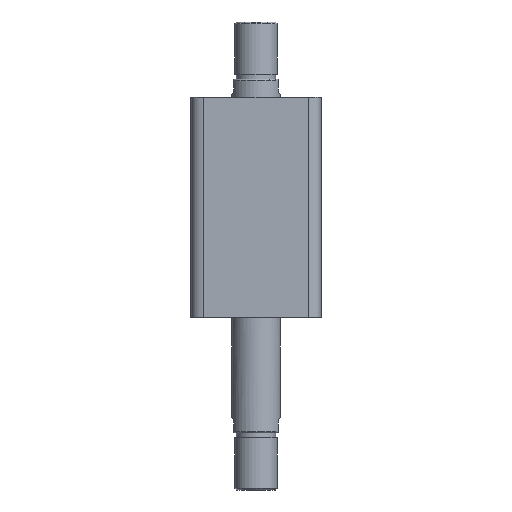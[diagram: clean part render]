
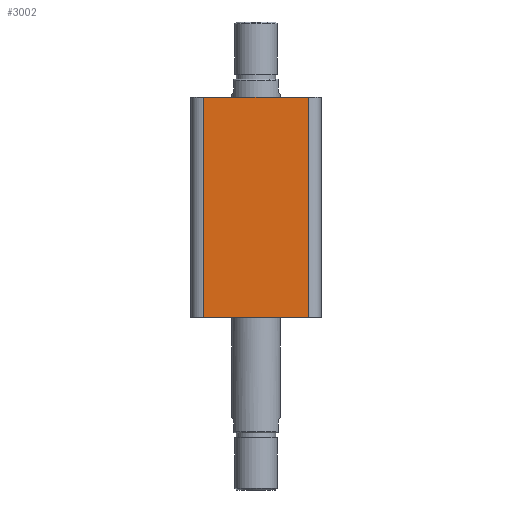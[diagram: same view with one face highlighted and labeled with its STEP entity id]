
A CAD part, front view. The second image highlights one B-rep face of the part: STEP entity #3002.
In plain terms, the highlighted planar face has unit normal (0, -1, 0).
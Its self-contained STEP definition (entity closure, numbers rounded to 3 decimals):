
#128 = AXIS2_PLACEMENT_3D ( 'NONE', #2170, #2174, #2175 ) ;
#663 = LINE ( 'NONE', #1323, #676 ) ;
#669 = LINE ( 'NONE', #1333, #672 ) ;
#671 = LINE ( 'NONE', #1335, #674 ) ;
#672 = VECTOR ( 'NONE', #1334, 1000. ) ;
#674 = VECTOR ( 'NONE', #1336, 1000. ) ;
#675 = LINE ( 'NONE', #1338, #678 ) ;
#676 = VECTOR ( 'NONE', #1337, 1000. ) ;
#678 = VECTOR ( 'NONE', #1339, 1000. ) ;
#1218 = FACE_OUTER_BOUND ( 'NONE', #3411, .T. ) ;
#1323 = CARTESIAN_POINT ( 'NONE',  ( -40., -40., 0. ) ) ;
#1333 = CARTESIAN_POINT ( 'NONE',  ( -40., -40., 135. ) ) ;
#1334 = DIRECTION ( 'NONE',  ( 1., 0., 0. ) ) ;
#1335 = CARTESIAN_POINT ( 'NONE',  ( -32., -40., 135. ) ) ;
#1336 = DIRECTION ( 'NONE',  ( 0., 0., -1. ) ) ;
#1337 = DIRECTION ( 'NONE',  ( 1., 0., 0. ) ) ;
#1338 = CARTESIAN_POINT ( 'NONE',  ( 32., -40., 135. ) ) ;
#1339 = DIRECTION ( 'NONE',  ( 0., 0., 1. ) ) ;
#1930 = CARTESIAN_POINT ( 'NONE',  ( -32., -40., 135. ) ) ;
#2077 = CARTESIAN_POINT ( 'NONE',  ( 32., -40., 0. ) ) ;
#2078 = CARTESIAN_POINT ( 'NONE',  ( -32., -40., 0. ) ) ;
#2079 = CARTESIAN_POINT ( 'NONE',  ( 32., -40., 135. ) ) ;
#2170 = CARTESIAN_POINT ( 'NONE',  ( -40., -40., 135. ) ) ;
#2172 = PLANE ( 'NONE',  #128 ) ;
#2174 = DIRECTION ( 'NONE',  ( 0., 1., 0. ) ) ;
#2175 = DIRECTION ( 'NONE',  ( 0., 0., 1. ) ) ;
#2665 = ORIENTED_EDGE ( 'NONE', *, *, #3209, .F. ) ;
#2666 = ORIENTED_EDGE ( 'NONE', *, *, #3210, .T. ) ;
#2667 = ORIENTED_EDGE ( 'NONE', *, *, #3211, .T. ) ;
#2668 = ORIENTED_EDGE ( 'NONE', *, *, #3212, .T. ) ;
#2917 = VERTEX_POINT ( 'NONE', #2079 ) ;
#2918 = VERTEX_POINT ( 'NONE', #2078 ) ;
#2919 = VERTEX_POINT ( 'NONE', #2077 ) ;
#3002 = ADVANCED_FACE ( 'NONE', ( #1218 ), #2172, .F. ) ;
#3209 = EDGE_CURVE ( 'NONE', #3413, #2917, #669, .T. ) ;
#3210 = EDGE_CURVE ( 'NONE', #3413, #2918, #671, .T. ) ;
#3211 = EDGE_CURVE ( 'NONE', #2918, #2919, #663, .T. ) ;
#3212 = EDGE_CURVE ( 'NONE', #2919, #2917, #675, .T. ) ;
#3411 = EDGE_LOOP ( 'NONE', ( #2665, #2666, #2667, #2668 ) ) ;
#3413 = VERTEX_POINT ( 'NONE', #1930 ) ;
